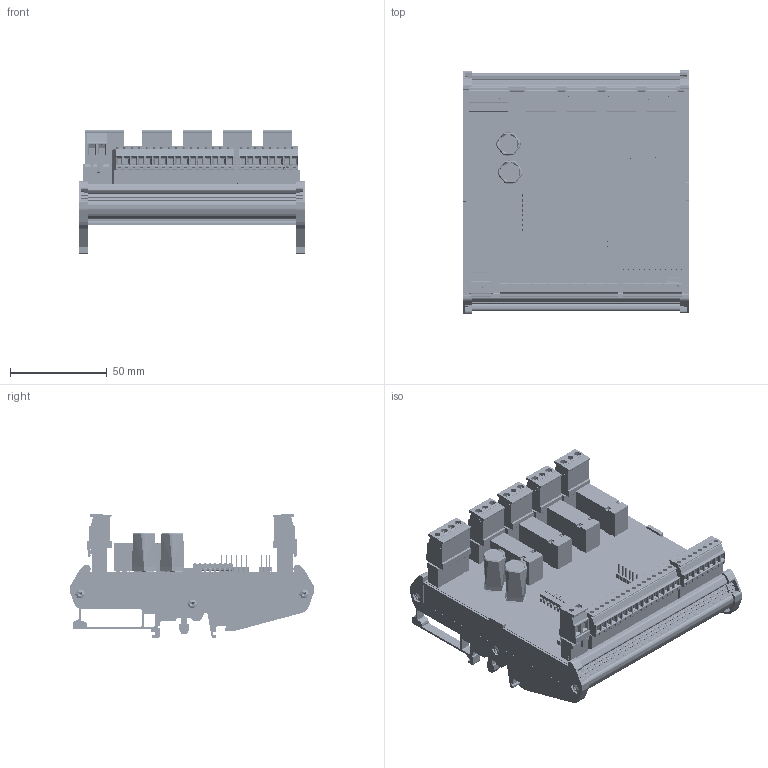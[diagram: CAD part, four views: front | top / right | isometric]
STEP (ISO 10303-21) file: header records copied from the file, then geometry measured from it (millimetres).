
FILE_DESCRIPTION(/* description */ (''),/* implementation_level */ '2;1');
FILE_NAME(/* name */ 'C:/Temp/STEP/MULTI-16_V120.step',/* time_stamp */ '2020-04-03T14:08:54+03:00',/* author */ (''),/* organization */ (''),/* preprocessor_version */ 'ST-DEVELOPER v18',/* originating_system */ 'Autodesk Translation Framework v8.12.0.6',/* authorisation */ '');
FILE_SCHEMA (('AUTOMOTIVE_DESIGN { 1 0 10303 214 3 1 1 }'));
Products named in the file (1): MULTI-16_V120
Bounding box: 117 x 125.6 x 63.92 mm (x, y, z)
Topology: 135 solids, 201 shells, 22200 faces, 62208 edges, 41345 vertices
Faces by surface type: plane 13324, cylinder 6010, bspline 2600, cone 120, sphere 100, torus 46
Full cylindrical faces by diameter (mm): 0.296 x12, 0.434 x6, 0.457 x8, 0.6 x4, 0.63 x8, 0.8 x20, 0.9 x4, 1 x20, 1.1 x4, 1.18 x24, 1.2 x95, 1.4 x74, 1.6 x21, 1.71 x54, 2 x70, 2.404 x6, 2.8 x47, 2.9 x24, 3 x2, 3.4 x6, 3.783 x18, 4 x18, 5.15 x6, 6 x4, 10.5 x4
Entity records: 786735 total; most frequent: CARTESIAN_POINT 189653, ORIENTED_EDGE 123684, DIRECTION 115329, EDGE_CURVE 62146, LINE 46115, VECTOR 46115, VERTEX_POINT 41329, AXIS2_PLACEMENT_3D 34607
